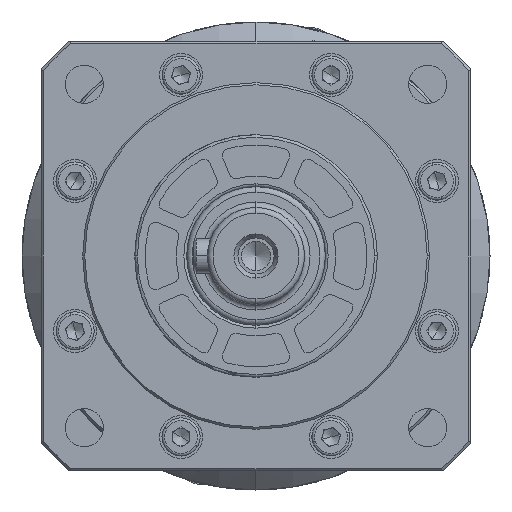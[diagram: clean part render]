
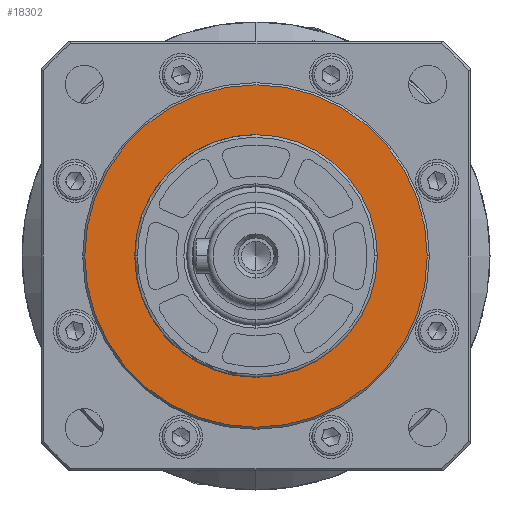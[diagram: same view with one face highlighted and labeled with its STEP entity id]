
A CAD part, left-side view. The second image highlights one B-rep face of the part: STEP entity #18302.
In plain terms, the highlighted planar face has unit normal (-1, 0, 0).
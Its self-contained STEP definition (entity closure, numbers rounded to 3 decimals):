
#530 = CARTESIAN_POINT ( 'NONE',  ( 0., 0., 17.5 ) ) ;
#944 = CARTESIAN_POINT ( 'NONE',  ( 0., 0., 0. ) ) ;
#1027 = ORIENTED_EDGE ( 'NONE', *, *, #22132, .F. ) ;
#1745 = VERTEX_POINT ( 'NONE', #3975 ) ;
#2757 = CARTESIAN_POINT ( 'NONE',  ( 0., 0., 0. ) ) ;
#3975 = CARTESIAN_POINT ( 'NONE',  ( 0., 24.7, 0. ) ) ;
#4426 = DIRECTION ( 'NONE',  ( 1., 0., 0. ) ) ;
#5915 = DIRECTION ( 'NONE',  ( -1., 0., 0. ) ) ;
#5926 = DIRECTION ( 'NONE',  ( 1., 0., 0. ) ) ;
#6209 = EDGE_CURVE ( 'NONE', #1745, #36407, #10972, .T. ) ;
#7850 = CIRCLE ( 'NONE', #33710, 17.5 ) ;
#8008 = CARTESIAN_POINT ( 'NONE',  ( 0., 0., 0. ) ) ;
#8678 = AXIS2_PLACEMENT_3D ( 'NONE', #8008, #4426, #33201 ) ;
#8706 = CARTESIAN_POINT ( 'NONE',  ( 0., 17.5, 0. ) ) ;
#10315 = EDGE_LOOP ( 'NONE', ( #37036, #1027 ) ) ;
#10972 = CIRCLE ( 'NONE', #11005, 24.7 ) ;
#11005 = AXIS2_PLACEMENT_3D ( 'NONE', #944, #29764, #13908 ) ;
#12640 = VERTEX_POINT ( 'NONE', #28320 ) ;
#12867 = CARTESIAN_POINT ( 'NONE',  ( 0., 0., 0. ) ) ;
#13455 = DIRECTION ( 'NONE',  ( 0., 0., 1. ) ) ;
#13908 = DIRECTION ( 'NONE',  ( 0., 1., 0. ) ) ;
#15977 = DIRECTION ( 'NONE',  ( 0., 0., 1. ) ) ;
#16843 = ORIENTED_EDGE ( 'NONE', *, *, #29990, .F. ) ;
#17503 = VERTEX_POINT ( 'NONE', #530 ) ;
#17870 = EDGE_CURVE ( 'NONE', #17503, #12640, #7850, .T. ) ;
#18302 = ADVANCED_FACE ( 'NONE', ( #19835, #32787 ), #37796, .F. ) ;
#19822 = AXIS2_PLACEMENT_3D ( 'NONE', #8706, #5926, #28356 ) ;
#19835 = FACE_OUTER_BOUND ( 'NONE', #34327, .T. ) ;
#20387 = AXIS2_PLACEMENT_3D ( 'NONE', #12867, #5915, #15977 ) ;
#22132 = EDGE_CURVE ( 'NONE', #12640, #17503, #37318, .T. ) ;
#24475 = CARTESIAN_POINT ( 'NONE',  ( 0., -24.7, 0. ) ) ;
#28320 = CARTESIAN_POINT ( 'NONE',  ( 0., 0., -17.5 ) ) ;
#28356 = DIRECTION ( 'NONE',  ( 0., 0., -1. ) ) ;
#29764 = DIRECTION ( 'NONE',  ( 1., 0., 0. ) ) ;
#29990 = EDGE_CURVE ( 'NONE', #36407, #1745, #40520, .T. ) ;
#32128 = ORIENTED_EDGE ( 'NONE', *, *, #6209, .F. ) ;
#32787 = FACE_BOUND ( 'NONE', #10315, .T. ) ;
#33201 = DIRECTION ( 'NONE',  ( 0., 1., 0. ) ) ;
#33710 = AXIS2_PLACEMENT_3D ( 'NONE', #2757, #35296, #13455 ) ;
#34327 = EDGE_LOOP ( 'NONE', ( #32128, #16843 ) ) ;
#35296 = DIRECTION ( 'NONE',  ( -1., 0., 0. ) ) ;
#36407 = VERTEX_POINT ( 'NONE', #24475 ) ;
#37036 = ORIENTED_EDGE ( 'NONE', *, *, #17870, .F. ) ;
#37318 = CIRCLE ( 'NONE', #20387, 17.5 ) ;
#37796 = PLANE ( 'NONE',  #19822 ) ;
#40520 = CIRCLE ( 'NONE', #8678, 24.7 ) ;
